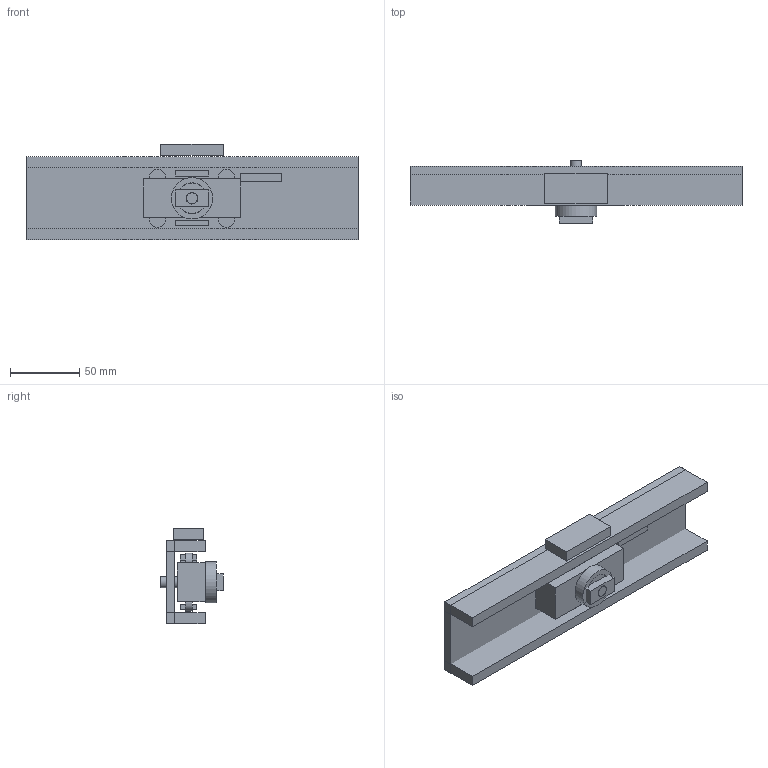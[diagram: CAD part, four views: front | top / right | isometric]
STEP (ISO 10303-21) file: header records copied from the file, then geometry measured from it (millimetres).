
FILE_DESCRIPTION(('FreeCAD Model'),'2;1');
FILE_NAME('Open CASCADE Shape Model','2026-10-29T12:13:25',('FreeCAD'),( 'FreeCAD'),'Open CASCADE STEP processor 7.8','FreeCAD','Unknown');
FILE_SCHEMA(('AUTOMOTIVE_DESIGN { 1 0 10303 214 1 1 1 1 }'));
Length unit declared in the file: millimetre
Products named in the file (1): Open CASCADE STEP translator 7.8 1
Bounding box: 240 x 45 x 69 mm (x, y, z)
Volume: 276093.1 mm3; surface area: 108767.9 mm2
Topology: 32 solids, 32 shells, 171 faces, 321 edges, 214 vertices
Faces by surface type: plane 156, cylinder 15
Full cylindrical faces by diameter (mm): 8 x2, 8.4 x3, 12 x4, 16 x1, 22 x1, 22.2 x1, 24 x1, 24.4 x1, 30 x1
Entity records: 4177 total; most frequent: CARTESIAN_POINT 707, DIRECTION 695, ORIENTED_EDGE 642, EDGE_CURVE 321, LINE 291, VECTOR 291, VERTEX_POINT 214, AXIS2_PLACEMENT_3D 202
